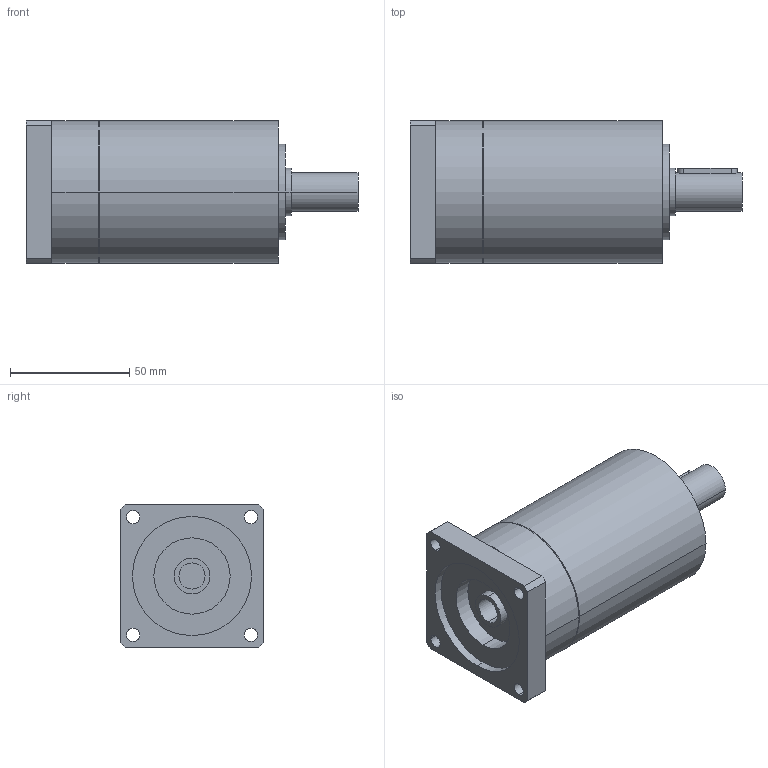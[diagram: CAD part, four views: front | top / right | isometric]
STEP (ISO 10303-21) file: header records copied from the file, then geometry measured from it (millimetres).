
FILE_DESCRIPTION(('CoCreate Modeling STEP Export'),'2;1');
FILE_NAME('GPR75_ig-9-12-16-20-24-30-36_16_B14_11_P20.stp','2014-08-25T16:01:16',(''),(''),'CoCreate Modeling STEP processor for AP214 (Solid Model)','CoCreate Modeling 16.00C 25-Feb-2009 (C) Parametric Technology GmbH','');
FILE_SCHEMA(('AUTOMOTIVE_DESIGN { 1 0 10303 214 1 1 1 1 }'));
Length unit declared in the file: millimetre
Products named in the file (2): GPR75_ig-9-12-16-20-24-30-36_16_B14_11_P20
Assembly tree (1 placements, depth 2):
  GPR75_ig-9-12-16-20-24-30-36_16_B14_11_P20
    GPR75_ig-9-12-16-20-24-30-36_16_B14_11_P20
Bounding box: 139.4 x 60 x 60 mm (x, y, z)
Volume: 302255.9 mm3; surface area: 33317.6 mm2
Topology: 1 solids, 1 shells, 70 faces, 189 edges, 133 vertices
Faces by surface type: cylinder 42, plane 22, cone 6
Entity records: 2028 total; most frequent: ORIENTED_EDGE 374, CARTESIAN_POINT 371, DIRECTION 270, EDGE_CURVE 187, VERTEX_POINT 133, AXIS2_PLACEMENT_3D 102, EDGE_LOOP 92, FACE_OUTER_BOUND 70
